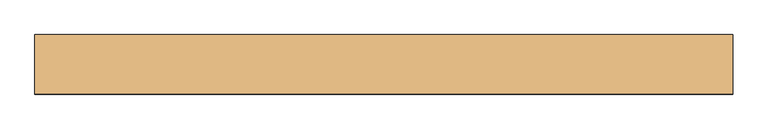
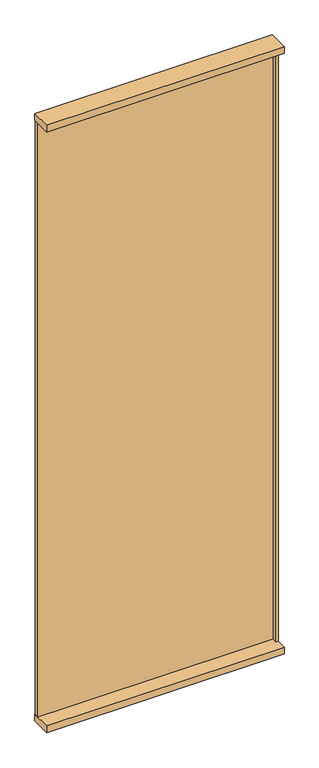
"""IFC4 building model written with IfcOpenShell, lengths in millimetres: door geometry, Mobiliário_Mobiliário de Escritório_Painel Lambri - ACVL (Complementar)_Marelli : ACVL."""

from ifc_helpers import new_model, si_unit, frame, origin, origin_with_axes, place, context, project, spatial, polyline, outline, extrude, source, transform, mapped, element, save


def door_01771f59(model_context):
    return source(origin(), model_context, "Body", "SweptSolid", [
        extrude(outline(polyline([(500.0, 42.5), (500.0, -42.5), (-500.0, -42.5), (-500.0, 42.5), (500.0, 42.5)])), origin_with_axes(), (0.0, 0.0, 1.0), 30.0),
        extrude(outline(polyline([(500.0, 42.5), (500.0, -42.5), (-500.0, -42.5), (-500.0, 42.5), (500.0, 42.5)])), frame((0.0, 0.0, 2670.0), z_axis=(0.0, 0.0, 1.0), x_axis=(1.0, 0.0, 0.0)), (0.0, 0.0, 1.0), 30.0),
        extrude(outline(polyline([(500.0, -0.5), (490.0, -0.5), (490.0, 42.5), (500.0, 42.5), (500.0, -0.5)])), frame((0.0, 0.0, 30.0), z_axis=(0.0, 0.0, 1.0), x_axis=(1.0, 0.0, 0.0)), (0.0, 0.0, 1.0), 2640.0),
        extrude(outline(polyline([(490.0, 39.5), (490.0, 21.5), (-500.0, 21.5), (-500.0, 39.5), (490.0, 39.5)])), frame((0.0, 0.0, 30.0), z_axis=(0.0, 0.0, 1.0), x_axis=(1.0, 0.0, 0.0)), (0.0, 0.0, 1.0), 2640.0),
    ])


if __name__ == "__main__":
    model = new_model("IFC4")
    model_context = context("Model", 3, world=origin())
    ifc_project = project(units=[si_unit("LENGTHUNIT", "METRE", prefix="MILLI")], contexts=[model_context])
    site = spatial("IfcSite", under=ifc_project)
    building = spatial("IfcBuilding", under=site)
    placement = place(None, origin())
    door_shape = door_01771f59(model_context)
    element("IfcDoor", 1, ObjectType="Mobiliário_Mobiliário de Escritório_Painel Lambri - ACVL (Complementar)_Marelli : ACVL", at=placement, inside=building, context=model_context, shape_type="MappedRepresentation", body=[
        mapped(door_shape, transform((0.0, 0.0, 0.0), x_axis=(1.0, 0.0, 0.0), y_axis=(0.0, 1.0, 0.0), z_axis=(0.0, 0.0, 1.0))),
    ])
    save(model, "model.ifc")
